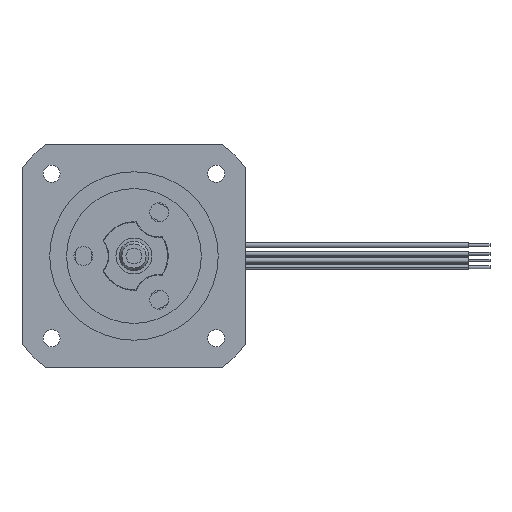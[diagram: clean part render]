
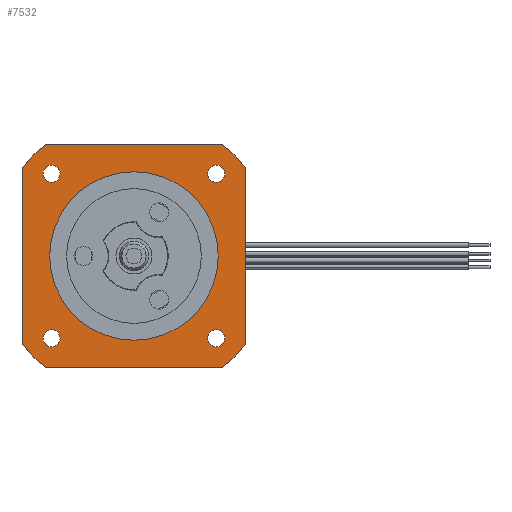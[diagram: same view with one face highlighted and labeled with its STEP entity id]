
A CAD part, left-side view. The second image highlights one B-rep face of the part: STEP entity #7532.
In plain terms, the highlighted planar face has unit normal (-1, 0, 0).
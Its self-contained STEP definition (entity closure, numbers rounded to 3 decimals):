
#7089=CARTESIAN_POINT('',(-18.357,-15.52,17.12));
#7090=VERTEX_POINT('',#7089);
#7099=CARTESIAN_POINT('',(-18.357,-15.52,15.52));
#7100=DIRECTION('',(0.,0.,1.));
#7101=DIRECTION('',(1.,0.,0.));
#7102=AXIS2_PLACEMENT_3D('',#7099,#7101,#7100);
#7103=CIRCLE('',#7102,1.6);
#7104=EDGE_CURVE('',#7090,#7090,#7103,.T.);
#7122=CARTESIAN_POINT('',(-18.357,15.52,-13.92));
#7123=VERTEX_POINT('',#7122);
#7132=CARTESIAN_POINT('',(-18.357,15.52,-15.52));
#7133=DIRECTION('',(0.,0.,1.));
#7134=DIRECTION('',(1.,0.,0.));
#7135=AXIS2_PLACEMENT_3D('',#7132,#7134,#7133);
#7136=CIRCLE('',#7135,1.6);
#7137=EDGE_CURVE('',#7123,#7123,#7136,.T.);
#7155=CARTESIAN_POINT('',(-18.357,-15.52,-13.92));
#7156=VERTEX_POINT('',#7155);
#7165=CARTESIAN_POINT('',(-18.357,-15.52,-15.52));
#7166=DIRECTION('',(0.,0.,1.));
#7167=DIRECTION('',(1.,0.,0.));
#7168=AXIS2_PLACEMENT_3D('',#7165,#7167,#7166);
#7169=CIRCLE('',#7168,1.6);
#7170=EDGE_CURVE('',#7156,#7156,#7169,.T.);
#7188=CARTESIAN_POINT('',(-18.357,15.52,17.12));
#7189=VERTEX_POINT('',#7188);
#7198=CARTESIAN_POINT('',(-18.357,15.52,15.52));
#7199=DIRECTION('',(0.,0.,1.));
#7200=DIRECTION('',(1.,0.,0.));
#7201=AXIS2_PLACEMENT_3D('',#7198,#7200,#7199);
#7202=CIRCLE('',#7201,1.6);
#7203=EDGE_CURVE('',#7189,#7189,#7202,.T.);
#7434=CARTESIAN_POINT('',(-18.357,0.,0.));
#7435=DIRECTION('',(0.,-1.,0.));
#7436=DIRECTION('',(-1.,0.,0.));
#7437=AXIS2_PLACEMENT_3D('',#7434,#7436,#7435);
#7438=PLANE('',#7437);
#7439=CARTESIAN_POINT('',(-18.357,16.707,-21.));
#7440=VERTEX_POINT('',#7439);
#7441=CARTESIAN_POINT('',(-18.357,21.,-16.707));
#7442=VERTEX_POINT('',#7441);
#7443=CARTESIAN_POINT('',(-18.357,0.,0.));
#7444=DIRECTION('',(0.,0.623,-0.783));
#7445=DIRECTION('',(1.,0.,0.));
#7446=AXIS2_PLACEMENT_3D('',#7443,#7445,#7444);
#7447=CIRCLE('',#7446,26.835);
#7448=EDGE_CURVE('',#7440,#7442,#7447,.T.);
#7449=ORIENTED_EDGE('E14',*,*,#7448,.F.);
#7450=CARTESIAN_POINT('',(-18.357,-16.707,-21.));
#7451=VERTEX_POINT('',#7450);
#7452=CARTESIAN_POINT('',(-18.357,-16.707,-21.));
#7453=DIRECTION('',(0.,1.,0.));
#7454=VECTOR('',#7453,33.414);
#7455=LINE('',#7452,#7454);
#7456=EDGE_CURVE('',#7451,#7440,#7455,.T.);
#7457=ORIENTED_EDGE('E11',*,*,#7456,.F.);
#7458=CARTESIAN_POINT('',(-18.357,-21.,-16.707));
#7459=VERTEX_POINT('',#7458);
#7460=CARTESIAN_POINT('',(-18.357,0.,0.));
#7461=DIRECTION('',(0.,-0.783,-0.623));
#7462=DIRECTION('',(1.,0.,0.));
#7463=AXIS2_PLACEMENT_3D('',#7460,#7462,#7461);
#7464=CIRCLE('',#7463,26.835);
#7465=EDGE_CURVE('',#7459,#7451,#7464,.T.);
#7466=ORIENTED_EDGE('E50',*,*,#7465,.F.);
#7467=CARTESIAN_POINT('',(-18.357,-21.,16.707));
#7468=VERTEX_POINT('',#7467);
#7469=CARTESIAN_POINT('',(-18.357,-21.,16.707));
#7470=DIRECTION('',(0.,0.,-1.));
#7471=VECTOR('',#7470,33.414);
#7472=LINE('',#7469,#7471);
#7473=EDGE_CURVE('',#7468,#7459,#7472,.T.);
#7474=ORIENTED_EDGE('E47',*,*,#7473,.F.);
#7475=CARTESIAN_POINT('',(-18.357,-16.707,21.));
#7476=VERTEX_POINT('',#7475);
#7477=CARTESIAN_POINT('',(-18.357,0.,0.));
#7478=DIRECTION('',(0.,-0.623,0.783));
#7479=DIRECTION('',(1.,0.,0.));
#7480=AXIS2_PLACEMENT_3D('',#7477,#7479,#7478);
#7481=CIRCLE('',#7480,26.835);
#7482=EDGE_CURVE('',#7476,#7468,#7481,.T.);
#7483=ORIENTED_EDGE('E38',*,*,#7482,.F.);
#7484=CARTESIAN_POINT('',(-18.357,16.707,21.));
#7485=VERTEX_POINT('',#7484);
#7486=CARTESIAN_POINT('',(-18.357,16.707,21.));
#7487=DIRECTION('',(0.,-1.,0.));
#7488=VECTOR('',#7487,33.414);
#7489=LINE('',#7486,#7488);
#7490=EDGE_CURVE('',#7485,#7476,#7489,.T.);
#7491=ORIENTED_EDGE('E35',*,*,#7490,.F.);
#7492=CARTESIAN_POINT('',(-18.357,21.,16.707));
#7493=VERTEX_POINT('',#7492);
#7494=CARTESIAN_POINT('',(-18.357,0.,0.));
#7495=DIRECTION('',(0.,0.783,0.623));
#7496=DIRECTION('',(1.,0.,0.));
#7497=AXIS2_PLACEMENT_3D('',#7494,#7496,#7495);
#7498=CIRCLE('',#7497,26.835);
#7499=EDGE_CURVE('',#7493,#7485,#7498,.T.);
#7500=ORIENTED_EDGE('E26',*,*,#7499,.F.);
#7501=CARTESIAN_POINT('',(-18.357,21.,-16.707));
#7502=DIRECTION('',(0.,0.,1.));
#7503=VECTOR('',#7502,33.414);
#7504=LINE('',#7501,#7503);
#7505=EDGE_CURVE('',#7442,#7493,#7504,.T.);
#7506=ORIENTED_EDGE('E23',*,*,#7505,.F.);
#7507=EDGE_LOOP('',(#7449,#7457,#7466,#7474,#7483,#7491,#7500,#7506));
#7508=FACE_OUTER_BOUND('',#7507,.T.);
#7509=ORIENTED_EDGE('',*,*,#7137,.T.);
#7510=EDGE_LOOP('',(#7509));
#7511=FACE_BOUND('',#7510,.T.);
#7512=ORIENTED_EDGE('',*,*,#7170,.T.);
#7513=EDGE_LOOP('',(#7512));
#7514=FACE_BOUND('',#7513,.T.);
#7515=ORIENTED_EDGE('',*,*,#7203,.T.);
#7516=EDGE_LOOP('',(#7515));
#7517=FACE_BOUND('',#7516,.T.);
#7518=ORIENTED_EDGE('',*,*,#7104,.T.);
#7519=EDGE_LOOP('',(#7518));
#7520=FACE_BOUND('',#7519,.T.);
#7521=CARTESIAN_POINT('',(-18.357,-15.875,0.));
#7522=VERTEX_POINT('',#7521);
#7523=CARTESIAN_POINT('',(-18.357,0.,0.));
#7524=DIRECTION('',(0.,-1.,0.));
#7525=DIRECTION('',(1.,0.,0.));
#7526=AXIS2_PLACEMENT_3D('',#7523,#7525,#7524);
#7527=CIRCLE('',#7526,15.875);
#7528=EDGE_CURVE('',#7522,#7522,#7527,.T.);
#7529=ORIENTED_EDGE('E96',*,*,#7528,.T.);
#7530=EDGE_LOOP('',(#7529));
#7531=FACE_BOUND('',#7530,.T.);
#7532=ADVANCED_FACE('F28',(#7508,#7511,#7514,#7517,#7520,#7531),#7438,.T.);
